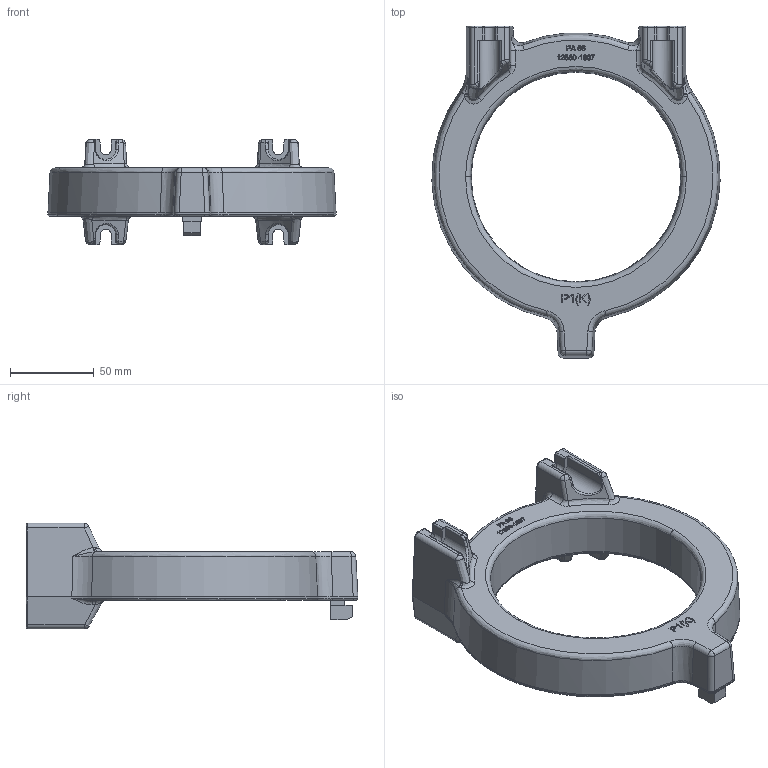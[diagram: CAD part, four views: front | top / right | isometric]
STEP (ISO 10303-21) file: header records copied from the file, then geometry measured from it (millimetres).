
FILE_DESCRIPTION(('STEP AP203'),'2;1');
FILE_NAME('Stromwandler_D125.stp','2014-03-12T10:14:14',(''),(''),'2013.1.116','THINKDESIGN','');
FILE_SCHEMA(('CONFIG_CONTROL_DESIGN'));
Bounding box: 171.93 x 198 x 63 mm (x, y, z)
Volume: 277645.8 mm3; surface area: 162106.6 mm2
Topology: 4 solids, 4 shells, 1687 faces, 4505 edges, 2882 vertices
Faces by surface type: bspline 981, plane 554, cylinder 152
Entity records: 72796 total; most frequent: CARTESIAN_POINT 36825, ORIENTED_EDGE 8930, DIRECTION 4751, EDGE_CURVE 4465, VERTEX_POINT 2882, VECTOR 2235, LINE 2235, EDGE_LOOP 1791
